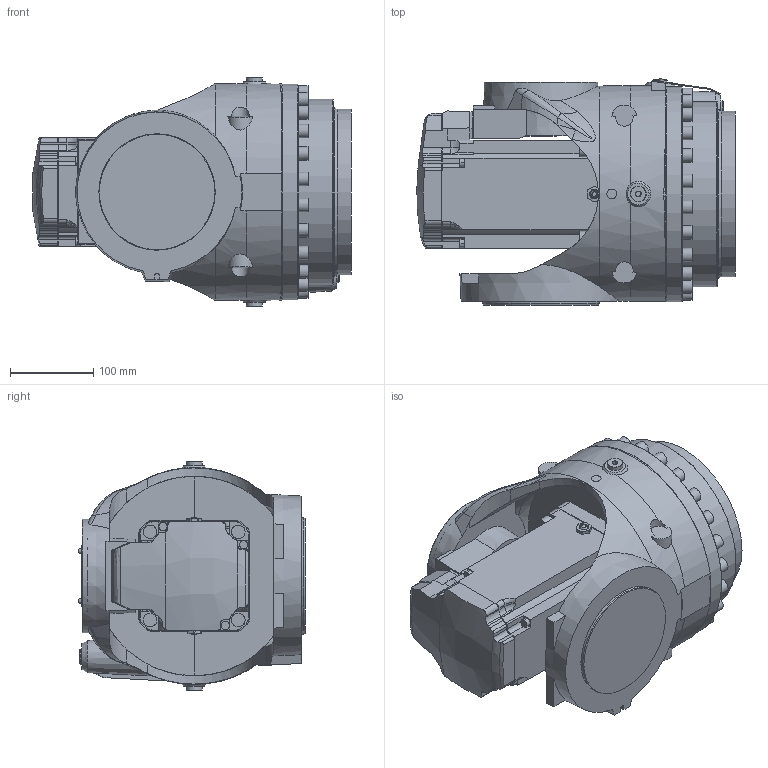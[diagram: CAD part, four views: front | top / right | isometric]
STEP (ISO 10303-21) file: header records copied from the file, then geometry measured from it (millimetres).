
FILE_DESCRIPTION (( 'STEP AP214' ), '1' );
FILE_NAME ('IRB7720_All-310_OC_00_LINK05_CAD.step', '2026-01-28T12:47:29', ( '' ), ( '' ), 'SwSTEP 2.0', 'SolidWorks 2024', '' );
FILE_SCHEMA (( 'AUTOMOTIVE_DESIGN' ));
Length unit declared in the file: millimetre
Products named in the file (1): IRB7720_All-310_OC_00_LINK05_CAD
Bounding box: 382.96 x 272.23 x 275 mm (x, y, z)
Volume: 12242840.6 mm3; surface area: 586836.5 mm2
Topology: 1 solids, 1 shells, 657 faces, 1711 edges, 1118 vertices
Faces by surface type: plane 335, cylinder 202, cone 66, bspline 40, torus 14
Full cylindrical faces by diameter (mm): 4.8 x2, 5.5 x4, 8.5 x2, 10 x3, 11 x1, 11.8 x2, 16.27 x28, 17.9 x2, 18 x2, 19 x2, 134 x1, 140 x1, 199 x1, 202.811 x1, 223 x1, 259 x1
Entity records: 32035 total; most frequent: CARTESIAN_POINT 9990, ORIENTED_EDGE 3138, DIRECTION 2818, EDGE_CURVE 1569, VERTEX_POINT 1065, AXIS2_PLACEMENT_3D 1046, EDGE_LOOP 818, VECTOR 726
